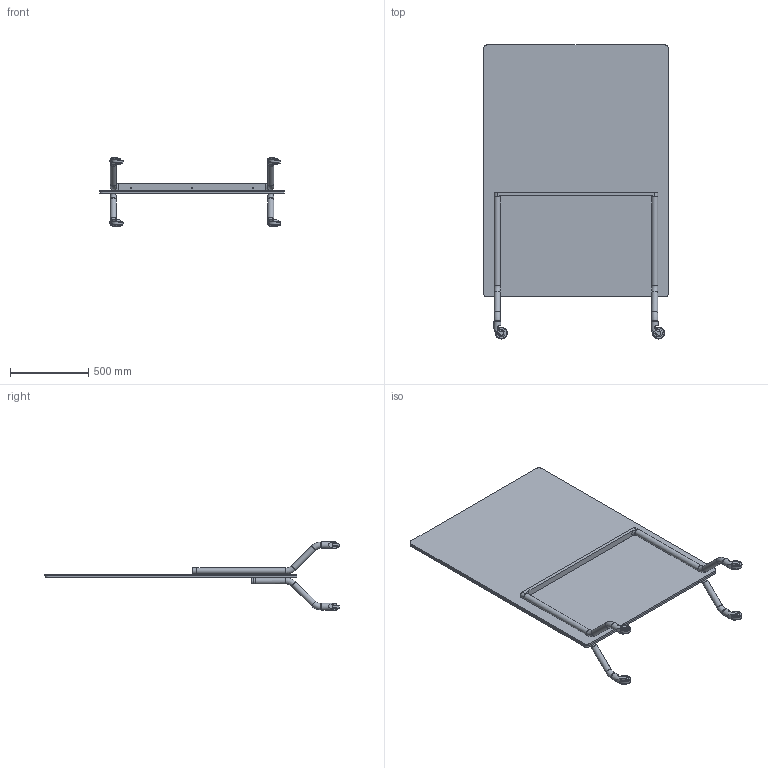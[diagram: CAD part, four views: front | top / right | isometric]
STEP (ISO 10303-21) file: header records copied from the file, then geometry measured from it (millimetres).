
FILE_DESCRIPTION(/* description */ (''),/* implementation_level */ '2;1');
FILE_NAME(/* name */ 'NOTE Silent S124-WH190.step',/* time_stamp */ '2024-10-16T13:01:25+03:00',/* author */ (''),/* organization */ (''),/* preprocessor_version */ 'ST-DEVELOPER v20',/* originating_system */ 'Autodesk Translation Framework v13.20.0.188',/* authorisation */ '');
FILE_SCHEMA (('AUTOMOTIVE_DESIGN { 1 0 10303 214 3 1 1 }'));
Length unit declared in the file: millimetre
Products named in the file (2): NOTE Silent S124-WH190; NOTE   S124-MWH190
Assembly tree (1 placements, depth 2):
  NOTE Silent S124-WH190
    NOTE   S124-MWH190
Bounding box: 1181 x 1881.92 x 441.43 mm (x, y, z)
Volume: 47718578.6 mm3; surface area: 4964622.4 mm2
Topology: 1 solids, 11 shells, 452 faces, 1193 edges, 788 vertices
Faces by surface type: cylinder 203, plane 129, torus 64, bspline 52, cone 4
Full cylindrical faces by diameter (mm): 4.234 x6, 5 x5, 5.12 x2, 8 x15, 10 x20, 36 x10, 40 x6, 44 x4
Entity records: 23819 total; most frequent: CARTESIAN_POINT 13125, ORIENTED_EDGE 2370, DIRECTION 1997, EDGE_CURVE 1185, AXIS2_PLACEMENT_3D 842, VERTEX_POINT 788, EDGE_LOOP 519, FACE_OUTER_BOUND 452
